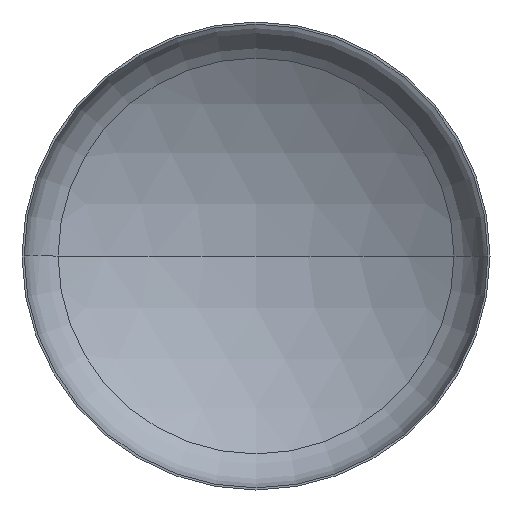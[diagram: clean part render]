
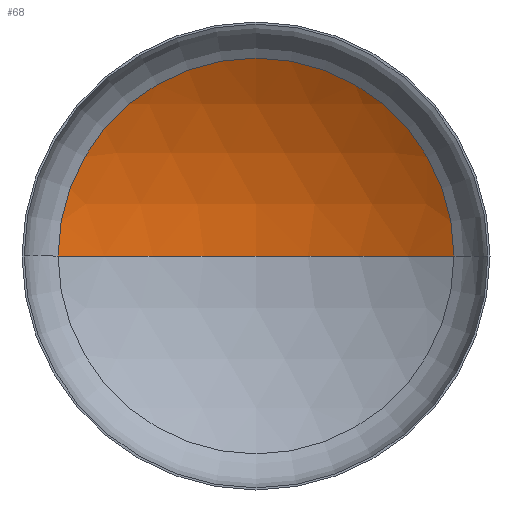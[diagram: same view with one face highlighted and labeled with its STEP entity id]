
A CAD part, front view. The second image highlights one B-rep face of the part: STEP entity #68.
In plain terms, the highlighted spherical face has radius 6000 mm.
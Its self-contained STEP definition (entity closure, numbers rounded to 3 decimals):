
#13 = VERTEX_POINT ( 'NONE', #36 ) ;
#16 = CARTESIAN_POINT ( 'NONE',  ( 0., -4002.822, 0. ) ) ;
#18 = VERTEX_POINT ( 'NONE', #311 ) ;
#36 = CARTESIAN_POINT ( 'NONE',  ( 3171.517, 1090.456, 0. ) ) ;
#53 = ORIENTED_EDGE ( 'NONE', *, *, #230, .T. ) ;
#57 = ORIENTED_EDGE ( 'NONE', *, *, #232, .T. ) ;
#67 = VERTEX_POINT ( 'NONE', #294 ) ;
#68 = ADVANCED_FACE ( 'NONE', ( #352 ), #117, .F. ) ;
#94 = EDGE_LOOP ( 'NONE', ( #107, #57, #53 ) ) ;
#100 = CARTESIAN_POINT ( 'NONE',  ( 0., -4002.822, 0. ) ) ;
#105 = DIRECTION ( 'NONE',  ( -1., 0., 0. ) ) ;
#107 = ORIENTED_EDGE ( 'NONE', *, *, #244, .F. ) ;
#117 = SPHERICAL_SURFACE ( 'NONE', #175, 6000. ) ;
#126 = AXIS2_PLACEMENT_3D ( 'NONE', #326, #171, #349 ) ;
#129 = AXIS2_PLACEMENT_3D ( 'NONE', #16, #280, #105 ) ;
#132 = AXIS2_PLACEMENT_3D ( 'NONE', #199, #370, #236 ) ;
#171 = DIRECTION ( 'NONE',  ( 0., 0., 1. ) ) ;
#175 = AXIS2_PLACEMENT_3D ( 'NONE', #100, #225, #222 ) ;
#199 = CARTESIAN_POINT ( 'NONE',  ( 0., 1090.456, 0. ) ) ;
#222 = DIRECTION ( 'NONE',  ( -1., 0., 0. ) ) ;
#225 = DIRECTION ( 'NONE',  ( 0., 0., -1. ) ) ;
#230 = EDGE_CURVE ( 'NONE', #13, #67, #330, .T. ) ;
#232 = EDGE_CURVE ( 'NONE', #18, #13, #273, .T. ) ;
#236 = DIRECTION ( 'NONE',  ( 1., 0., 0. ) ) ;
#244 = EDGE_CURVE ( 'NONE', #18, #67, #384, .T. ) ;
#273 = CIRCLE ( 'NONE', #129, 6000. ) ;
#280 = DIRECTION ( 'NONE',  ( 0., 0., -1. ) ) ;
#294 = CARTESIAN_POINT ( 'NONE',  ( -3171.517, 1090.456, 0. ) ) ;
#311 = CARTESIAN_POINT ( 'NONE',  ( 0., 1997.178, 0. ) ) ;
#326 = CARTESIAN_POINT ( 'NONE',  ( 0., -4002.822, 0. ) ) ;
#330 = CIRCLE ( 'NONE', #132, 3171.517 ) ;
#349 = DIRECTION ( 'NONE',  ( 1., 0., 0. ) ) ;
#352 = FACE_OUTER_BOUND ( 'NONE', #94, .T. ) ;
#370 = DIRECTION ( 'NONE',  ( 0., -1., 0. ) ) ;
#384 = CIRCLE ( 'NONE', #126, 6000. ) ;
